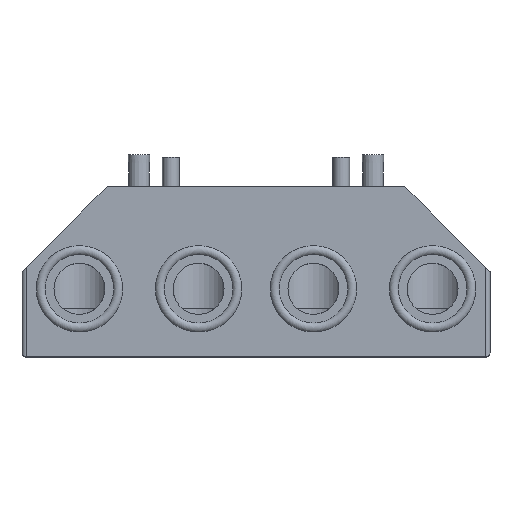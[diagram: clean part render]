
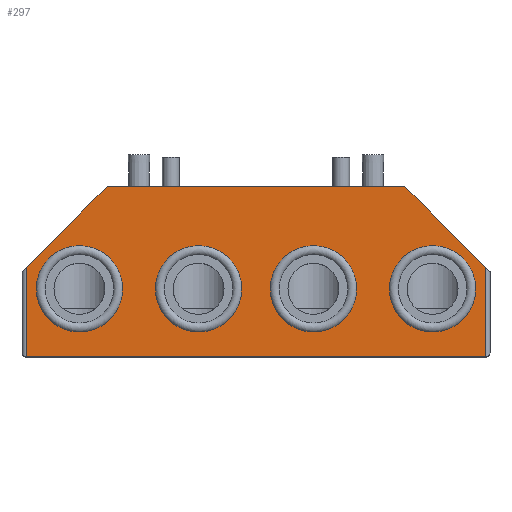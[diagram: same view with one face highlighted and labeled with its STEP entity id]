
A CAD part, top view. The second image highlights one B-rep face of the part: STEP entity #297.
In plain terms, the highlighted planar face has unit normal (0, 0, 1).
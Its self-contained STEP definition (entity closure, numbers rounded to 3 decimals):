
#297=ADVANCED_FACE('',(#616,#617,#618,#619,#620),#621,.T.);
#616=FACE_BOUND('',#957,.T.);
#617=FACE_BOUND('',#958,.T.);
#618=FACE_BOUND('',#959,.T.);
#619=FACE_BOUND('',#960,.T.);
#620=FACE_OUTER_BOUND('',#961,.T.);
#621=PLANE('',#962);
#957=EDGE_LOOP('',(#1539));
#958=EDGE_LOOP('',(#1540));
#959=EDGE_LOOP('',(#1541));
#960=EDGE_LOOP('',(#1542));
#961=EDGE_LOOP('',(#1543,#1544,#1545,#1546,#1547,#1548));
#962=AXIS2_PLACEMENT_3D('',#1549,#1550,#1551);
#1539=ORIENTED_EDGE('',*,*,#1913,.F.);
#1540=ORIENTED_EDGE('',*,*,#1739,.F.);
#1541=ORIENTED_EDGE('',*,*,#1744,.F.);
#1542=ORIENTED_EDGE('',*,*,#1741,.F.);
#1543=ORIENTED_EDGE('',*,*,#1914,.T.);
#1544=ORIENTED_EDGE('',*,*,#1886,.T.);
#1545=ORIENTED_EDGE('',*,*,#1837,.T.);
#1546=ORIENTED_EDGE('',*,*,#1915,.T.);
#1547=ORIENTED_EDGE('',*,*,#1827,.T.);
#1548=ORIENTED_EDGE('',*,*,#1858,.T.);
#1549=CARTESIAN_POINT('',(-55.0,-40.0,14.0));
#1550=DIRECTION('',(0.0,0.0,1.0));
#1551=DIRECTION('',(1.0,0.0,0.0));
#1739=EDGE_CURVE('',#2000,#2000,#2001,.T.);
#1741=EDGE_CURVE('',#2003,#2003,#2004,.T.);
#1744=EDGE_CURVE('',#2008,#2008,#2009,.T.);
#1827=EDGE_CURVE('',#2133,#2131,#2134,.T.);
#1837=EDGE_CURVE('',#2151,#2149,#2152,.T.);
#1858=EDGE_CURVE('',#2131,#2184,#2186,.T.);
#1886=EDGE_CURVE('',#2227,#2151,#2228,.T.);
#1913=EDGE_CURVE('',#2261,#2261,#2262,.T.);
#1914=EDGE_CURVE('',#2184,#2227,#2263,.T.);
#1915=EDGE_CURVE('',#2149,#2133,#2264,.T.);
#2000=VERTEX_POINT('',#2526);
#2001=CIRCLE('',#2527,10.139);
#2003=VERTEX_POINT('',#2529);
#2004=CIRCLE('',#2530,10.139);
#2008=VERTEX_POINT('',#2534);
#2009=CIRCLE('',#2535,10.139);
#2131=VERTEX_POINT('',#2695);
#2133=VERTEX_POINT('',#2697);
#2134=LINE('',#2698,#2699);
#2149=VERTEX_POINT('',#2717);
#2151=VERTEX_POINT('',#2720);
#2152=LINE('',#2721,#2722);
#2184=VERTEX_POINT('',#2820);
#2186=LINE('',#2822,#2823);
#2227=VERTEX_POINT('',#2893);
#2228=LINE('',#2894,#2895);
#2261=VERTEX_POINT('',#2935);
#2262=CIRCLE('',#2936,10.139);
#2263=LINE('',#2937,#2938);
#2264=LINE('',#2939,#2940);
#2526=CARTESIAN_POINT('',(-3.361,-24.0,14.0));
#2527=AXIS2_PLACEMENT_3D('',#3023,#3024,#3025);
#2529=CARTESIAN_POINT('',(23.639,-24.0,14.0));
#2530=AXIS2_PLACEMENT_3D('',#3026,#3027,#3028);
#2534=CARTESIAN_POINT('',(-31.361,-24.0,14.0));
#2535=AXIS2_PLACEMENT_3D('',#3032,#3033,#3034);
#2695=CARTESIAN_POINT('',(-54.0,-19.0,14.0));
#2697=CARTESIAN_POINT('',(-35.0,0.0,14.0));
#2698=CARTESIAN_POINT('',(-65.0,-30.0,14.0));
#2699=VECTOR('',#3121,1.0);
#2717=CARTESIAN_POINT('',(35.0,0.0,14.0));
#2720=CARTESIAN_POINT('',(54.0,-19.0,14.0));
#2721=CARTESIAN_POINT('',(10.0,25.0,14.0));
#2722=VECTOR('',#3135,1.0);
#2820=CARTESIAN_POINT('',(-54.0,-40.0,14.0));
#2822=CARTESIAN_POINT('',(-54.0,-40.0,14.0));
#2823=VECTOR('',#3166,1.0);
#2893=CARTESIAN_POINT('',(54.0,-40.0,14.0));
#2894=CARTESIAN_POINT('',(54.0,-20.0,14.0));
#2895=VECTOR('',#3197,1.0);
#2935=CARTESIAN_POINT('',(51.639,-24.0,14.0));
#2936=AXIS2_PLACEMENT_3D('',#3226,#3227,#3228);
#2937=CARTESIAN_POINT('',(-55.0,-40.0,14.0));
#2938=VECTOR('',#3229,1.0);
#2939=CARTESIAN_POINT('',(55.0,0.0,14.0));
#2940=VECTOR('',#3230,1.0);
#3023=CARTESIAN_POINT('',(-13.5,-24.0,14.0));
#3024=DIRECTION('',(0.0,0.0,1.0));
#3025=DIRECTION('',(1.0,0.0,0.0));
#3026=CARTESIAN_POINT('',(13.5,-24.0,14.0));
#3027=DIRECTION('',(0.0,0.0,1.0));
#3028=DIRECTION('',(1.0,0.0,0.0));
#3032=CARTESIAN_POINT('',(-41.5,-24.0,14.0));
#3033=DIRECTION('',(0.0,0.0,1.0));
#3034=DIRECTION('',(1.0,0.0,0.0));
#3121=DIRECTION('',(-0.707,-0.707,0.0));
#3135=DIRECTION('',(-0.707,0.707,0.0));
#3166=DIRECTION('',(0.0,-1.0,0.0));
#3197=DIRECTION('',(0.0,1.0,0.0));
#3226=CARTESIAN_POINT('',(41.5,-24.0,14.0));
#3227=DIRECTION('',(0.0,0.0,1.0));
#3228=DIRECTION('',(1.0,0.0,0.0));
#3229=DIRECTION('',(1.0,0.0,0.0));
#3230=DIRECTION('',(-1.0,0.0,0.0));
